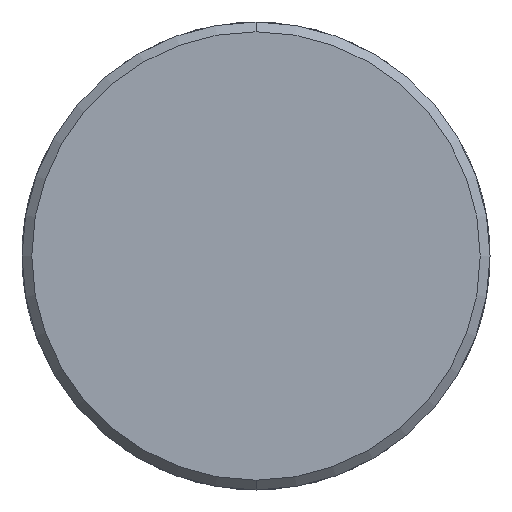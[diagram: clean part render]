
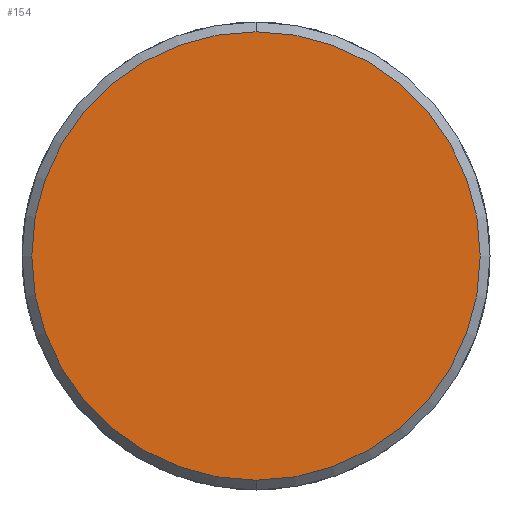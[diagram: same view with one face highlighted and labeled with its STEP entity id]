
A CAD part, front view. The second image highlights one B-rep face of the part: STEP entity #154.
In plain terms, the highlighted planar face has unit normal (0, -1, 0).
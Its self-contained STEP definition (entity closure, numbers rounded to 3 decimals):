
#117 = DIRECTION ( 'NONE',  ( 0., 0., 1. ) ) ;
#120 = PLANE ( 'NONE',  #2220 ) ;
#124 = DIRECTION ( 'NONE',  ( 0., 1., 0. ) ) ;
#132 = CARTESIAN_POINT ( 'NONE',  ( 0., 0., 0. ) ) ;
#154 = ADVANCED_FACE ( 'NONE', ( #1112 ), #120, .F. ) ;
#486 = CARTESIAN_POINT ( 'NONE',  ( 0., 0., 0. ) ) ;
#499 = DIRECTION ( 'NONE',  ( 0., 0., 1. ) ) ;
#501 = DIRECTION ( 'NONE',  ( 0., -1., 0. ) ) ;
#588 = DIRECTION ( 'NONE',  ( 0., -1., 0. ) ) ;
#591 = DIRECTION ( 'NONE',  ( 0., 0., 1. ) ) ;
#596 = CARTESIAN_POINT ( 'NONE',  ( 0., 0., 0. ) ) ;
#671 = CARTESIAN_POINT ( 'NONE',  ( 0., 0., 11.5 ) ) ;
#920 = ORIENTED_EDGE ( 'NONE', *, *, #2345, .T. ) ;
#943 = ORIENTED_EDGE ( 'NONE', *, *, #1774, .T. ) ;
#1105 = EDGE_LOOP ( 'NONE', ( #943, #920 ) ) ;
#1112 = FACE_OUTER_BOUND ( 'NONE', #1105, .T. ) ;
#1478 = CARTESIAN_POINT ( 'NONE',  ( 0., 0., -11.5 ) ) ;
#1495 = VERTEX_POINT ( 'NONE', #1478 ) ;
#1581 = CIRCLE ( 'NONE', #1582, 11.5 ) ;
#1582 = AXIS2_PLACEMENT_3D ( 'NONE', #596, #588, #591 ) ;
#1774 = EDGE_CURVE ( 'NONE', #2013, #1495, #1581, .T. ) ;
#1915 = CIRCLE ( 'NONE', #1916, 11.5 ) ;
#1916 = AXIS2_PLACEMENT_3D ( 'NONE', #486, #501, #499 ) ;
#2013 = VERTEX_POINT ( 'NONE', #671 ) ;
#2220 = AXIS2_PLACEMENT_3D ( 'NONE', #132, #124, #117 ) ;
#2345 = EDGE_CURVE ( 'NONE', #1495, #2013, #1915, .T. ) ;
